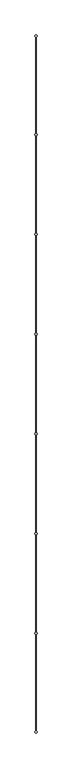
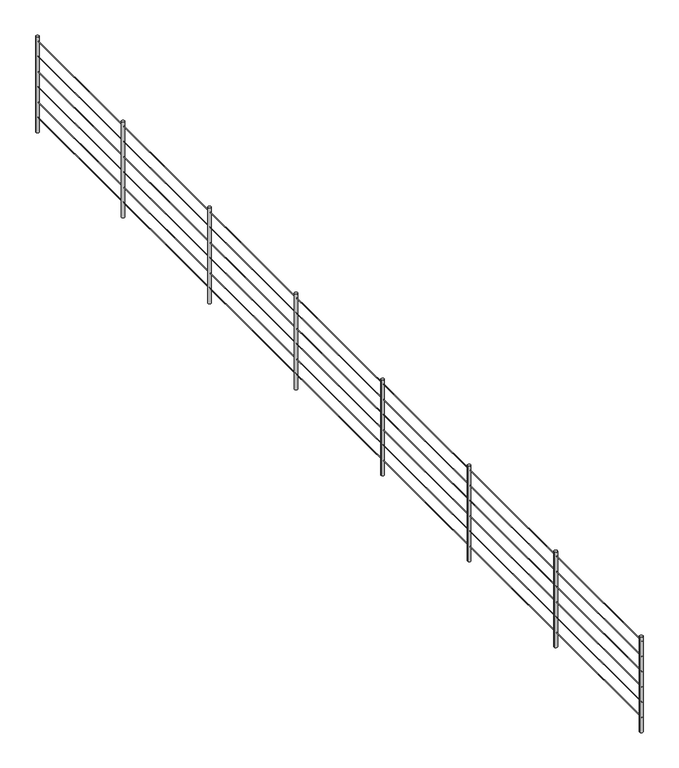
"""IFC4 building model written with IfcOpenShell, lengths in millimetres: railing geometry, Fencing - Strained Wire."""

from ifc_helpers import new_model, si_unit, point, frame, frame_2d, origin, origin_with_axes, place, context, project, spatial, circle_curve, trimmed, segment, composite_curve, outline, extrude, source, transform, mapped, element, save


def railing_27fb722e(model_context):
    return source(origin(), model_context, "Body", "SweptSolid", [
        extrude(outline(composite_curve([segment(trimmed(circle_curve(frame_2d((1197.0, 51956.9759075)), 3.0), [point((1197.0, 51953.9759075))], [point((1197.0, 51959.9759075))], False, "CARTESIAN"), True, "CONTINUOUS"), segment(trimmed(circle_curve(frame_2d((1197.0, 51956.9759075)), 3.0), [point((1197.0, 51959.9759075))], [point((1197.0, 51953.9759075))], False, "CARTESIAN"), True, "CONTINUOUS")], self_intersect=False)), frame((0.0, -56461.5014021, 0.0), z_axis=(0.0, 1.0, 0.0), x_axis=(0.0, 0.0, 1.0)), (0.0, 0.0, 1.0), 13000.0),
        extrude(outline(composite_curve([segment(trimmed(circle_curve(frame_2d((997.0, 51956.9759075)), 3.0), [point((997.0, 51953.9759075))], [point((997.0, 51959.9759075))], False, "CARTESIAN"), True, "CONTINUOUS"), segment(trimmed(circle_curve(frame_2d((997.0, 51956.9759075)), 3.0), [point((997.0, 51959.9759075))], [point((997.0, 51953.9759075))], False, "CARTESIAN"), True, "CONTINUOUS")], self_intersect=False)), frame((0.0, -56461.5014021, 0.0), z_axis=(0.0, 1.0, 0.0), x_axis=(0.0, 0.0, 1.0)), (0.0, 0.0, 1.0), 13000.0),
        extrude(outline(composite_curve([segment(trimmed(circle_curve(frame_2d((797.0, 51956.9759075)), 3.0), [point((797.0, 51953.9759075))], [point((797.0, 51959.9759075))], False, "CARTESIAN"), True, "CONTINUOUS"), segment(trimmed(circle_curve(frame_2d((797.0, 51956.9759075)), 3.0), [point((797.0, 51959.9759075))], [point((797.0, 51953.9759075))], False, "CARTESIAN"), True, "CONTINUOUS")], self_intersect=False)), frame((0.0, -56461.5014021, 0.0), z_axis=(0.0, 1.0, 0.0), x_axis=(0.0, 0.0, 1.0)), (0.0, 0.0, 1.0), 13000.0),
        extrude(outline(composite_curve([segment(trimmed(circle_curve(frame_2d((597.0, 51956.9759075)), 3.0), [point((597.0, 51953.9759075))], [point((597.0, 51959.9759075))], False, "CARTESIAN"), True, "CONTINUOUS"), segment(trimmed(circle_curve(frame_2d((597.0, 51956.9759075)), 3.0), [point((597.0, 51959.9759075))], [point((597.0, 51953.9759075))], False, "CARTESIAN"), True, "CONTINUOUS")], self_intersect=False)), frame((0.0, -56461.5014021, 0.0), z_axis=(0.0, 1.0, 0.0), x_axis=(0.0, 0.0, 1.0)), (0.0, 0.0, 1.0), 13000.0),
        extrude(outline(composite_curve([segment(trimmed(circle_curve(frame_2d((397.0, 51956.9759075)), 3.0), [point((397.0, 51953.9759075))], [point((397.0, 51959.9759075))], False, "CARTESIAN"), True, "CONTINUOUS"), segment(trimmed(circle_curve(frame_2d((397.0, 51956.9759075)), 3.0), [point((397.0, 51959.9759075))], [point((397.0, 51953.9759075))], False, "CARTESIAN"), True, "CONTINUOUS")], self_intersect=False)), frame((0.0, -56461.5014021, 0.0), z_axis=(0.0, 1.0, 0.0), x_axis=(0.0, 0.0, 1.0)), (0.0, 0.0, 1.0), 13000.0),
        extrude(outline(composite_curve([segment(trimmed(circle_curve(frame_2d((197.0, 51956.9759075)), 3.0), [point((197.0, 51953.9759075))], [point((197.0, 51959.9759075))], False, "CARTESIAN"), True, "CONTINUOUS"), segment(trimmed(circle_curve(frame_2d((197.0, 51956.9759075)), 3.0), [point((197.0, 51959.9759075))], [point((197.0, 51953.9759075))], False, "CARTESIAN"), True, "CONTINUOUS")], self_intersect=False)), frame((0.0, -56461.5014021, 0.0), z_axis=(0.0, 1.0, 0.0), x_axis=(0.0, 0.0, 1.0)), (0.0, 0.0, 1.0), 13000.0),
        extrude(outline(composite_curve([segment(trimmed(circle_curve(frame_2d((51956.9759075, -45318.6442592)), 20.0), [point((51936.9759075, -45318.6442592))], [point((51976.9759075, -45318.6442592))], False, "CARTESIAN"), True, "CONTINUOUS"), segment(trimmed(circle_curve(frame_2d((51956.9759075, -45318.6442592)), 20.0), [point((51976.9759075, -45318.6442592))], [point((51936.9759075, -45318.6442592))], False, "CARTESIAN"), True, "CONTINUOUS")], self_intersect=False)), origin_with_axes(), (0.0, 0.0, 1.0), 1250.0),
        extrude(outline(composite_curve([segment(trimmed(circle_curve(frame_2d((51956.9759075, -47175.7871164)), 20.0), [point((51936.9759075, -47175.7871164))], [point((51976.9759075, -47175.7871164))], False, "CARTESIAN"), True, "CONTINUOUS"), segment(trimmed(circle_curve(frame_2d((51956.9759075, -47175.7871164)), 20.0), [point((51976.9759075, -47175.7871164))], [point((51936.9759075, -47175.7871164))], False, "CARTESIAN"), True, "CONTINUOUS")], self_intersect=False)), origin_with_axes(), (0.0, 0.0, 1.0), 1250.0),
        extrude(outline(composite_curve([segment(trimmed(circle_curve(frame_2d((51956.9759075, -49032.9299735)), 20.0), [point((51936.9759075, -49032.9299735))], [point((51976.9759075, -49032.9299735))], False, "CARTESIAN"), True, "CONTINUOUS"), segment(trimmed(circle_curve(frame_2d((51956.9759075, -49032.9299735)), 20.0), [point((51976.9759075, -49032.9299735))], [point((51936.9759075, -49032.9299735))], False, "CARTESIAN"), True, "CONTINUOUS")], self_intersect=False)), origin_with_axes(), (0.0, 0.0, 1.0), 1250.0),
        extrude(outline(composite_curve([segment(trimmed(circle_curve(frame_2d((51956.9759075, -50890.0728307)), 20.0), [point((51936.9759075, -50890.0728307))], [point((51976.9759075, -50890.0728307))], False, "CARTESIAN"), True, "CONTINUOUS"), segment(trimmed(circle_curve(frame_2d((51956.9759075, -50890.0728307)), 20.0), [point((51976.9759075, -50890.0728307))], [point((51936.9759075, -50890.0728307))], False, "CARTESIAN"), True, "CONTINUOUS")], self_intersect=False)), origin_with_axes(), (0.0, 0.0, 1.0), 1250.0),
        extrude(outline(composite_curve([segment(trimmed(circle_curve(frame_2d((51956.9759075, -52747.2156878)), 20.0), [point((51936.9759075, -52747.2156878))], [point((51976.9759075, -52747.2156878))], False, "CARTESIAN"), True, "CONTINUOUS"), segment(trimmed(circle_curve(frame_2d((51956.9759075, -52747.2156878)), 20.0), [point((51976.9759075, -52747.2156878))], [point((51936.9759075, -52747.2156878))], False, "CARTESIAN"), True, "CONTINUOUS")], self_intersect=False)), origin_with_axes(), (0.0, 0.0, 1.0), 1250.0),
        extrude(outline(composite_curve([segment(trimmed(circle_curve(frame_2d((51956.9759075, -54604.3585449)), 20.0), [point((51936.9759075, -54604.3585449))], [point((51976.9759075, -54604.3585449))], False, "CARTESIAN"), True, "CONTINUOUS"), segment(trimmed(circle_curve(frame_2d((51956.9759075, -54604.3585449)), 20.0), [point((51976.9759075, -54604.3585449))], [point((51936.9759075, -54604.3585449))], False, "CARTESIAN"), True, "CONTINUOUS")], self_intersect=False)), origin_with_axes(), (0.0, 0.0, 1.0), 1250.0),
        extrude(outline(composite_curve([segment(trimmed(circle_curve(frame_2d((51956.9759075, -43481.5014021)), 20.0), [point((51936.9759075, -43481.5014021))], [point((51976.9759075, -43481.5014021))], False, "CARTESIAN"), True, "CONTINUOUS"), segment(trimmed(circle_curve(frame_2d((51956.9759075, -43481.5014021)), 20.0), [point((51976.9759075, -43481.5014021))], [point((51936.9759075, -43481.5014021))], False, "CARTESIAN"), True, "CONTINUOUS")], self_intersect=False)), origin_with_axes(), (0.0, 0.0, 1.0), 1250.0),
        extrude(outline(composite_curve([segment(trimmed(circle_curve(frame_2d((51956.9759075, -56441.5014021)), 20.0), [point((51936.9759075, -56441.5014021))], [point((51976.9759075, -56441.5014021))], False, "CARTESIAN"), True, "CONTINUOUS"), segment(trimmed(circle_curve(frame_2d((51956.9759075, -56441.5014021)), 20.0), [point((51976.9759075, -56441.5014021))], [point((51936.9759075, -56441.5014021))], False, "CARTESIAN"), True, "CONTINUOUS")], self_intersect=False)), origin_with_axes(), (0.0, 0.0, 1.0), 1250.0),
    ])


if __name__ == "__main__":
    model = new_model("IFC4")
    model_context = context("Model", 3, world=origin())
    ifc_project = project(units=[si_unit("LENGTHUNIT", "METRE", prefix="MILLI")], contexts=[model_context])
    site = spatial("IfcSite", under=ifc_project)
    building = spatial("IfcBuilding", under=site)
    placement = place(None, origin())
    railing_shape = railing_27fb722e(model_context)
    element("IfcRailing", 1, ObjectType="Fencing - Strained Wire", at=placement, inside=building, context=model_context, shape_type="MappedRepresentation", body=[
        mapped(railing_shape, transform((0.0, 0.0, 0.0), x_axis=(1.0, 0.0, 0.0), y_axis=(0.0, 1.0, 0.0), z_axis=(0.0, 0.0, 1.0))),
    ])
    save(model, "model.ifc")
